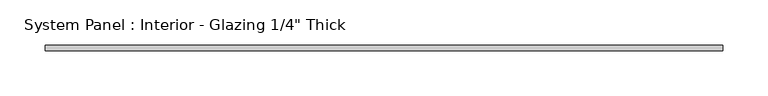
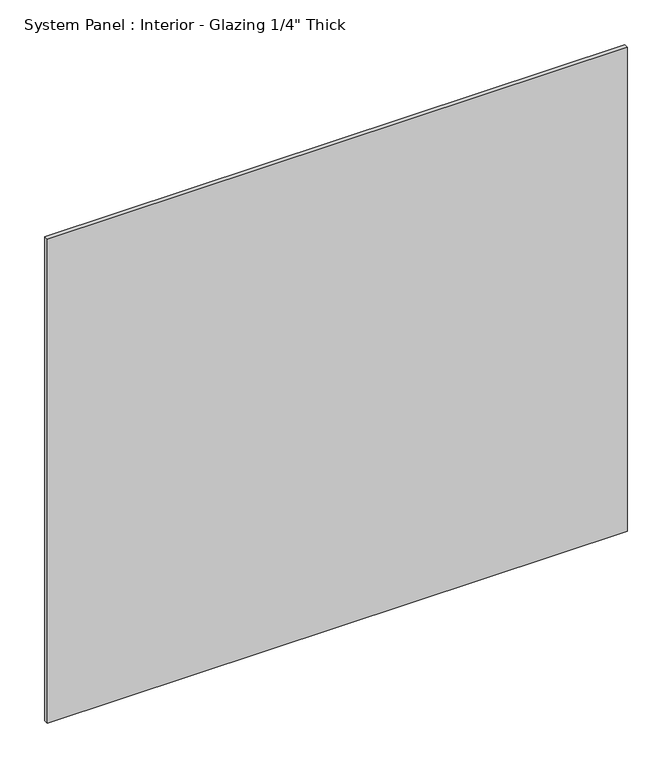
"""IFC4 building model written with IfcOpenShell, lengths in millimetres: plate geometry."""

from ifc_helpers import new_model, si_unit, origin, origin_with_axes, place, context, project, spatial, polyline, outline, extrude, source, transform, mapped, element, save


def plate_0d4e65cb(model_context):
    return source(origin(), model_context, "Body", "SweptSolid", [
        extrude(outline(polyline([(376.2375, -3.175), (-376.2375, -3.175), (-376.2375, 3.175), (376.2375, 3.175), (376.2375, -3.175)])), origin_with_axes(), (0.0, 0.0, 1.0), 663.7598407),
    ])


if __name__ == "__main__":
    model = new_model("IFC4")
    model_context = context("Model", 3, world=origin())
    ifc_project = project(units=[si_unit("LENGTHUNIT", "METRE", prefix="MILLI")], contexts=[model_context])
    site = spatial("IfcSite", under=ifc_project)
    building = spatial("IfcBuilding", under=site)
    placement = place(None, origin())
    plate_shape = plate_0d4e65cb(model_context)
    element("IfcPlate", 1, ObjectType="System Panel : Interior - Glazing 1/4\" Thick", at=placement, inside=building, context=model_context, shape_type="MappedRepresentation", body=[
        mapped(plate_shape, transform((0.0, 0.0, 0.0), x_axis=(1.0, 0.0, 0.0), y_axis=(0.0, 1.0, 0.0), z_axis=(0.0, 0.0, 1.0))),
    ])
    save(model, "model.ifc")
